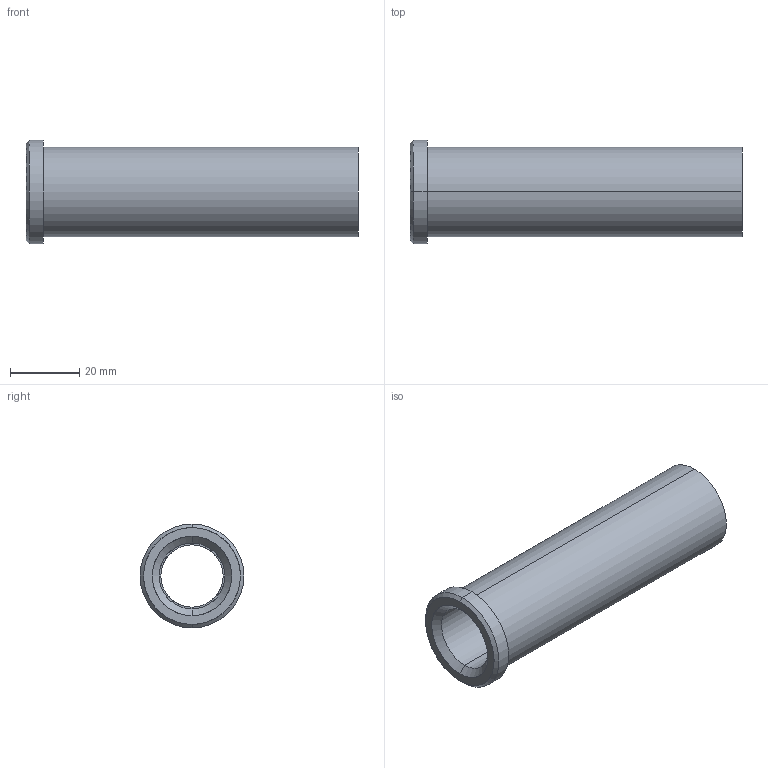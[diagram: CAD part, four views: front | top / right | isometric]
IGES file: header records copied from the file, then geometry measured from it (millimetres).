
Start section: START RECORD GO HERE.
Global section: file name: 353-18X96.igs; native system: DASSAULT SYSTEMES CATIA V5 R20 - www.3ds.com; preprocessor: CATIA Version 5 Release 20 ; author: Utente; organization: NB04-ASUS; date: 20210508.104610; units: millimetre
Bounding box: 96 x 30 x 30 mm (x, y, z)
Surface area: 14269.6 mm2 (no closed solid volume)
Topology: 0 solids, 0 shells, 18 faces, 116 edges, 116 vertices
Faces by surface type: revolution 14, plane 4
